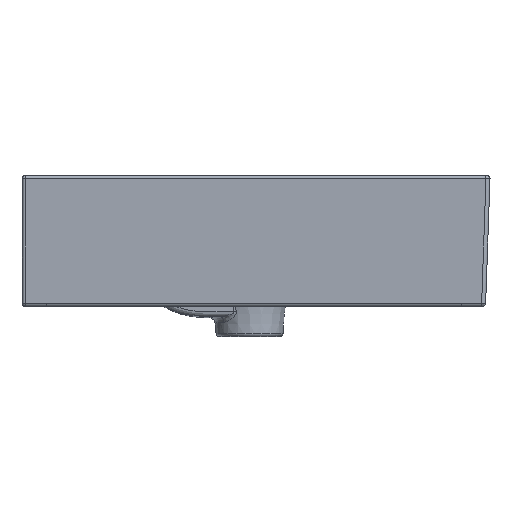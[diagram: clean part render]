
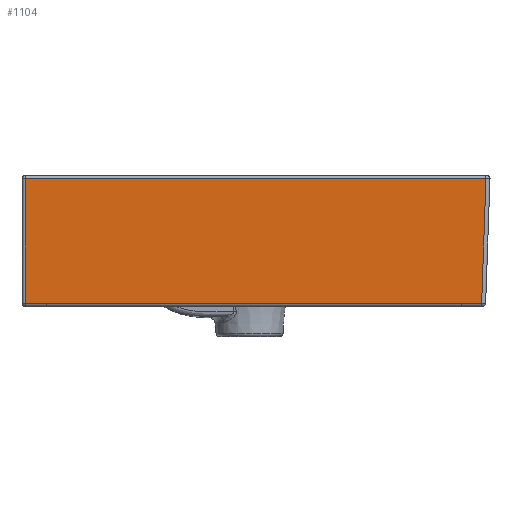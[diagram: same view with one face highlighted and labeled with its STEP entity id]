
A CAD part, left-side view. The second image highlights one B-rep face of the part: STEP entity #1104.
In plain terms, the highlighted planar face has unit normal (-1, 0, -0.026).
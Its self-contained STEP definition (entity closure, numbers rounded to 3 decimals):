
#781=LINE('',#16991,#955);
#782=LINE('',#16994,#956);
#783=LINE('',#16996,#957);
#784=LINE('',#16998,#958);
#785=LINE('',#17000,#959);
#786=LINE('',#17002,#960);
#955=VECTOR('',#6108,1.);
#956=VECTOR('',#6109,1.);
#957=VECTOR('',#6110,1.);
#958=VECTOR('',#6111,1.);
#959=VECTOR('',#6112,1.);
#960=VECTOR('',#6113,1.);
#1045=PLANE('',#5430);
#1104=ADVANCED_FACE('',(#1494),#1045,.T.);
#1494=FACE_OUTER_BOUND('',#1851,.T.);
#1851=EDGE_LOOP('',(#2485,#2486,#2487,#2488,#2489,#2490));
#2485=ORIENTED_EDGE('',*,*,#4523,.T.);
#2486=ORIENTED_EDGE('',*,*,#4524,.T.);
#2487=ORIENTED_EDGE('',*,*,#4525,.T.);
#2488=ORIENTED_EDGE('',*,*,#4526,.T.);
#2489=ORIENTED_EDGE('',*,*,#4527,.T.);
#2490=ORIENTED_EDGE('',*,*,#4528,.T.);
#4039=VERTEX_POINT('',#16992);
#4040=VERTEX_POINT('',#16993);
#4041=VERTEX_POINT('',#16995);
#4042=VERTEX_POINT('',#16997);
#4043=VERTEX_POINT('',#16999);
#4044=VERTEX_POINT('',#17001);
#4523=EDGE_CURVE('',#4039,#4040,#781,.T.);
#4524=EDGE_CURVE('',#4040,#4041,#782,.T.);
#4525=EDGE_CURVE('',#4041,#4042,#783,.T.);
#4526=EDGE_CURVE('',#4042,#4043,#784,.T.);
#4527=EDGE_CURVE('',#4043,#4044,#785,.T.);
#4528=EDGE_CURVE('',#4044,#4039,#786,.T.);
#5430=AXIS2_PLACEMENT_3D('',#17003,#6114,#6115);
#6108=DIRECTION('',(0.,1.,0.));
#6109=DIRECTION('',(0.026,0.,-1.));
#6110=DIRECTION('',(0.,-1.,0.));
#6111=DIRECTION('',(0.,-1.,0.));
#6112=DIRECTION('',(0.,-1.,0.));
#6113=DIRECTION('',(-0.026,-0.035,0.999));
#6114=DIRECTION('',(-1.,0.,-0.026));
#6115=DIRECTION('',(-0.026,0.,1.));
#16991=CARTESIAN_POINT('',(-399.919,0.,-3.079));
#16992=CARTESIAN_POINT('',(-399.919,-460.833,-3.079));
#16993=CARTESIAN_POINT('',(-399.919,-3.,-3.079));
#16994=CARTESIAN_POINT('',(-400.,-3.,0.));
#16995=CARTESIAN_POINT('',(-396.672,-3.,-127.079));
#16996=CARTESIAN_POINT('',(-396.672,-24.,-127.079));
#16997=CARTESIAN_POINT('',(-396.672,-24.,-127.079));
#16998=CARTESIAN_POINT('',(-396.672,-464.939,-127.079));
#16999=CARTESIAN_POINT('',(-396.672,-436.399,-127.079));
#17000=CARTESIAN_POINT('',(-396.672,-464.939,-127.079));
#17001=CARTESIAN_POINT('',(-396.672,-456.503,-127.079));
#17002=CARTESIAN_POINT('',(-400.004,-460.945,0.139));
#17003=CARTESIAN_POINT('',(-400.,-464.939,0.));
